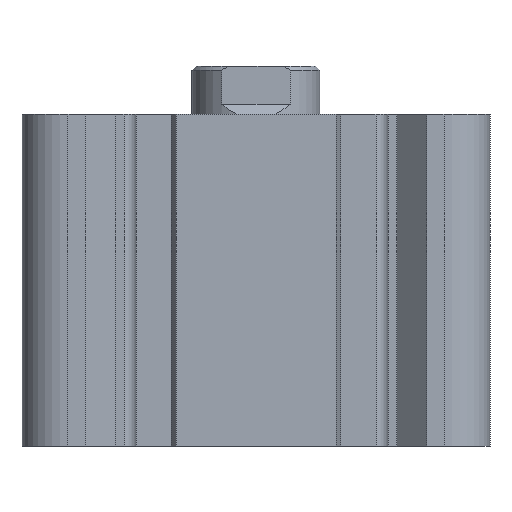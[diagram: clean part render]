
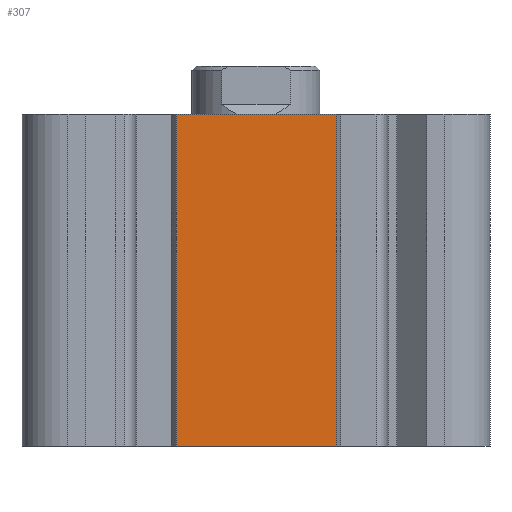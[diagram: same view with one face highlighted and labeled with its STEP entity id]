
A CAD part, left-side view. The second image highlights one B-rep face of the part: STEP entity #307.
In plain terms, the highlighted planar face has unit normal (-1, 0, 0).
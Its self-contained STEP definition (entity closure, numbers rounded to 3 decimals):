
#307 = ADVANCED_FACE( '', ( #716 ), #717, .T. );
#716 = FACE_OUTER_BOUND( '', #1266, .T. );
#717 = PLANE( '', #1267 );
#1266 = EDGE_LOOP( '', ( #2045, #2046, #2047, #2048 ) );
#1267 = AXIS2_PLACEMENT_3D( '', #2049, #2050, #2051 );
#2045 = ORIENTED_EDGE( '', *, *, #2931, .F. );
#2046 = ORIENTED_EDGE( '', *, *, #3114, .F. );
#2047 = ORIENTED_EDGE( '', *, *, #3115, .T. );
#2048 = ORIENTED_EDGE( '', *, *, #3116, .T. );
#2049 = CARTESIAN_POINT( '', ( -55.5, 19.998, -83. ) );
#2050 = DIRECTION( '', ( -1., 0., 0. ) );
#2051 = DIRECTION( '', ( 0., 0., 1. ) );
#2931 = EDGE_CURVE( '', #3430, #3432, #3433, .T. );
#3114 = EDGE_CURVE( '', #3737, #3430, #3738, .T. );
#3115 = EDGE_CURVE( '', #3737, #3739, #3740, .T. );
#3116 = EDGE_CURVE( '', #3739, #3432, #3741, .T. );
#3430 = VERTEX_POINT( '', #4148 );
#3432 = VERTEX_POINT( '', #4151 );
#3433 = LINE( '', #4152, #4153 );
#3737 = VERTEX_POINT( '', #4556 );
#3738 = LINE( '', #4557, #4558 );
#3739 = VERTEX_POINT( '', #4559 );
#3740 = LINE( '', #4560, #4561 );
#3741 = LINE( '', #4562, #4563 );
#4148 = CARTESIAN_POINT( '', ( -55.5, 19.998, 0. ) );
#4151 = CARTESIAN_POINT( '', ( -55.5, -20.002, 0. ) );
#4152 = CARTESIAN_POINT( '', ( -55.5, 19.998, 0. ) );
#4153 = VECTOR( '', #5033, 1000. );
#4556 = CARTESIAN_POINT( '', ( -55.5, 19.998, -83. ) );
#4557 = CARTESIAN_POINT( '', ( -55.5, 19.998, -83. ) );
#4558 = VECTOR( '', #5271, 1000. );
#4559 = CARTESIAN_POINT( '', ( -55.5, -20.002, -83. ) );
#4560 = CARTESIAN_POINT( '', ( -55.5, 19.998, -83. ) );
#4561 = VECTOR( '', #5272, 1000. );
#4562 = CARTESIAN_POINT( '', ( -55.5, -20.002, -83. ) );
#4563 = VECTOR( '', #5273, 1000. );
#5033 = DIRECTION( '', ( 0., -1., 0. ) );
#5271 = DIRECTION( '', ( 0., 0., 1. ) );
#5272 = DIRECTION( '', ( 0., -1., 0. ) );
#5273 = DIRECTION( '', ( 0., 0., 1. ) );
